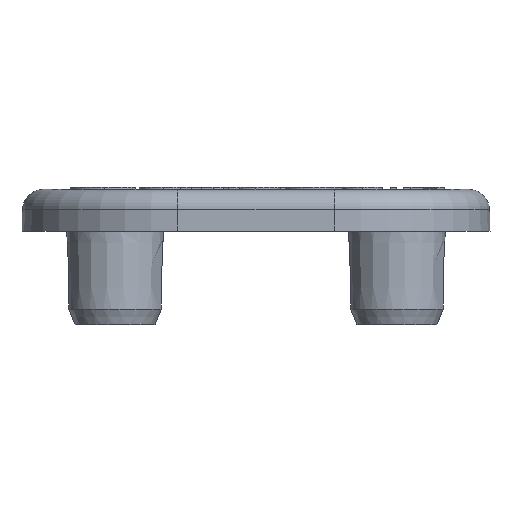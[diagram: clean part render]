
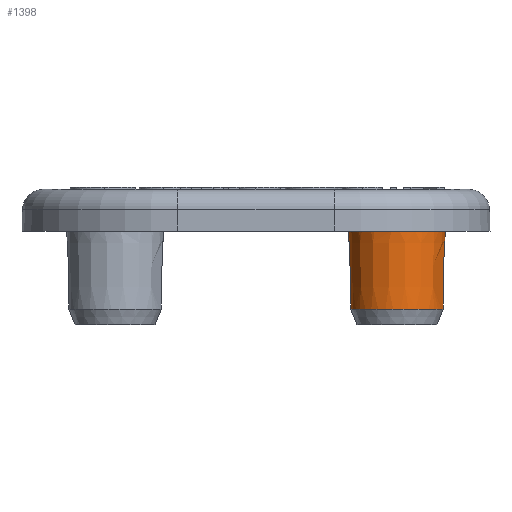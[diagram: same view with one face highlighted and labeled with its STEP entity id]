
A CAD part, front view. The second image highlights one B-rep face of the part: STEP entity #1398.
In plain terms, the highlighted conical face has half-angle 1 degrees and reference radius 4.65 mm.
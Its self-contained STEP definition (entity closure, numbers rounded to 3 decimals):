
#70 = CARTESIAN_POINT ( 'NONE',  ( 9.083, -14.3, -5.893 ) ) ;
#72 = B_SPLINE_CURVE_WITH_KNOTS ( 'NONE', 3,
 ( #6132, #1048, #10042, #70, #1113, #11214, #6192 ),
 .UNSPECIFIED., .F., .F.,
 ( 4, 3, 4 ),
 ( 0.007, 0.009, 0.014 ),
 .UNSPECIFIED. ) ;
#123 = FACE_OUTER_BOUND ( 'NONE', #2564, .T. ) ;
#193 = DIRECTION ( 'NONE',  ( 1., 0., 0. ) ) ;
#339 = VERTEX_POINT ( 'NONE', #3188 ) ;
#372 = CIRCLE ( 'NONE', #4734, 4.502 ) ;
#387 = CARTESIAN_POINT ( 'NONE',  ( 18.104, -14.3, -1. ) ) ;
#502 = DIRECTION ( 'NONE',  ( 1., 0., 0. ) ) ;
#530 = EDGE_CURVE ( 'NONE', #1846, #9855, #8696, .T. ) ;
#715 = CARTESIAN_POINT ( 'NONE',  ( 13.55, -13.55, 0. ) ) ;
#720 = B_SPLINE_CURVE_WITH_KNOTS ( 'NONE', 3,
 ( #9831, #8784, #12708, #3772 ),
 .UNSPECIFIED., .F., .F.,
 ( 4, 4 ),
 ( 0., 0.001 ),
 .UNSPECIFIED. ) ;
#773 = DIRECTION ( 'NONE',  ( 0., 0., 1. ) ) ;
#820 = CARTESIAN_POINT ( 'NONE',  ( 8.935, -13.55, -1. ) ) ;
#928 = LINE ( 'NONE', #6020, #2976 ) ;
#1048 = CARTESIAN_POINT ( 'NONE',  ( 9.102, -14.3, -6.964 ) ) ;
#1113 = CARTESIAN_POINT ( 'NONE',  ( 9.054, -14.3, -4.262 ) ) ;
#1215 = DIRECTION ( 'NONE',  ( 0., 0., 1. ) ) ;
#1358 = ORIENTED_EDGE ( 'NONE', *, *, #9087, .F. ) ;
#1398 = ADVANCED_FACE ( 'NONE', ( #123 ), #11439, .T. ) ;
#1641 = ORIENTED_EDGE ( 'NONE', *, *, #530, .F. ) ;
#1668 = AXIS2_PLACEMENT_3D ( 'NONE', #9429, #10289, #502 ) ;
#1703 = CARTESIAN_POINT ( 'NONE',  ( 12.965, -18.163, 1. ) ) ;
#1846 = VERTEX_POINT ( 'NONE', #8607 ) ;
#1950 = ORIENTED_EDGE ( 'NONE', *, *, #5797, .F. ) ;
#2059 = CIRCLE ( 'NONE', #3932, 4.615 ) ;
#2082 = DIRECTION ( 'NONE',  ( 0., 0., 1. ) ) ;
#2253 = DIRECTION ( 'NONE',  ( 1., 0., 0. ) ) ;
#2481 = AXIS2_PLACEMENT_3D ( 'NONE', #5137, #9109, #4942 ) ;
#2564 = EDGE_LOOP ( 'NONE', ( #3664, #9664, #8569, #10849, #1641, #5370, #9560, #1950, #5837, #1358 ) ) ;
#2616 = CARTESIAN_POINT ( 'NONE',  ( 13.024, -18.153, 0. ) ) ;
#2897 = CIRCLE ( 'NONE', #10189, 4.615 ) ;
#2902 = CARTESIAN_POINT ( 'NONE',  ( 8.996, -14.3, -1. ) ) ;
#2976 = VECTOR ( 'NONE', #3009, 1000. ) ;
#2992 = EDGE_CURVE ( 'NONE', #1846, #339, #2059, .T. ) ;
#3009 = DIRECTION ( 'NONE',  ( 0.017, 0., 1. ) ) ;
#3188 = CARTESIAN_POINT ( 'NONE',  ( 18.165, -13.55, -1. ) ) ;
#3461 = CARTESIAN_POINT ( 'NONE',  ( 17.989, -14.3, -7.5 ) ) ;
#3664 = ORIENTED_EDGE ( 'NONE', *, *, #10025, .F. ) ;
#3772 = CARTESIAN_POINT ( 'NONE',  ( 12.965, -18.163, 1. ) ) ;
#3932 = AXIS2_PLACEMENT_3D ( 'NONE', #6173, #1215, #5193 ) ;
#4323 = VERTEX_POINT ( 'NONE', #4595 ) ;
#4595 = CARTESIAN_POINT ( 'NONE',  ( 9.111, -14.3, -7.5 ) ) ;
#4734 = AXIS2_PLACEMENT_3D ( 'NONE', #10282, #8444, #2253 ) ;
#4859 = EDGE_CURVE ( 'NONE', #339, #5971, #928, .T. ) ;
#4942 = DIRECTION ( 'NONE',  ( 1., 0., 0. ) ) ;
#5113 = CARTESIAN_POINT ( 'NONE',  ( 17.998, -14.3, -6.964 ) ) ;
#5137 = CARTESIAN_POINT ( 'NONE',  ( 13.55, -13.55, 1. ) ) ;
#5193 = DIRECTION ( 'NONE',  ( -1., 0., 0. ) ) ;
#5277 = VERTEX_POINT ( 'NONE', #1703 ) ;
#5370 = ORIENTED_EDGE ( 'NONE', *, *, #2992, .T. ) ;
#5797 = EDGE_CURVE ( 'NONE', #12207, #5971, #10365, .T. ) ;
#5829 = EDGE_CURVE ( 'NONE', #4323, #9338, #72, .T. ) ;
#5837 = ORIENTED_EDGE ( 'NONE', *, *, #8817, .T. ) ;
#5908 = CARTESIAN_POINT ( 'NONE',  ( 18.046, -14.3, -4.262 ) ) ;
#5971 = VERTEX_POINT ( 'NONE', #10487 ) ;
#6020 = CARTESIAN_POINT ( 'NONE',  ( 18.2, -13.55, 1. ) ) ;
#6064 = CARTESIAN_POINT ( 'NONE',  ( 8.9, -13.55, 1. ) ) ;
#6132 = CARTESIAN_POINT ( 'NONE',  ( 9.111, -14.3, -7.5 ) ) ;
#6173 = CARTESIAN_POINT ( 'NONE',  ( 13.55, -13.55, -1. ) ) ;
#6186 = DIRECTION ( 'NONE',  ( -0.017, 0., 1. ) ) ;
#6192 = CARTESIAN_POINT ( 'NONE',  ( 8.996, -14.3, -1. ) ) ;
#6347 = CARTESIAN_POINT ( 'NONE',  ( 8.9, -13.55, 1. ) ) ;
#6428 = VERTEX_POINT ( 'NONE', #820 ) ;
#7030 = AXIS2_PLACEMENT_3D ( 'NONE', #715, #2082, #193 ) ;
#7075 = CARTESIAN_POINT ( 'NONE',  ( 18.008, -14.3, -6.429 ) ) ;
#7956 = LINE ( 'NONE', #6064, #7958 ) ;
#7958 = VECTOR ( 'NONE', #6186, 1000. ) ;
#8417 = DIRECTION ( 'NONE',  ( -1., 0., 0. ) ) ;
#8444 = DIRECTION ( 'NONE',  ( 0., 0., 1. ) ) ;
#8569 = ORIENTED_EDGE ( 'NONE', *, *, #5829, .F. ) ;
#8607 = CARTESIAN_POINT ( 'NONE',  ( 18.104, -14.3, -1. ) ) ;
#8696 = B_SPLINE_CURVE_WITH_KNOTS ( 'NONE', 3,
 ( #387, #9936, #5908, #10073, #7075, #5113, #11843 ),
 .UNSPECIFIED., .F., .F.,
 ( 4, 3, 4 ),
 ( 0.004, 0.009, 0.011 ),
 .UNSPECIFIED. ) ;
#8784 = CARTESIAN_POINT ( 'NONE',  ( 13.004, -18.156, 0.333 ) ) ;
#8817 = EDGE_CURVE ( 'NONE', #12207, #5277, #720, .T. ) ;
#9087 = EDGE_CURVE ( 'NONE', #12463, #5277, #11670, .T. ) ;
#9109 = DIRECTION ( 'NONE',  ( 0., 0., 1. ) ) ;
#9338 = VERTEX_POINT ( 'NONE', #2902 ) ;
#9429 = CARTESIAN_POINT ( 'NONE',  ( 13.55, -13.55, 1. ) ) ;
#9560 = ORIENTED_EDGE ( 'NONE', *, *, #4859, .T. ) ;
#9664 = ORIENTED_EDGE ( 'NONE', *, *, #9852, .T. ) ;
#9831 = CARTESIAN_POINT ( 'NONE',  ( 13.024, -18.153, 0. ) ) ;
#9852 = EDGE_CURVE ( 'NONE', #6428, #9338, #2897, .T. ) ;
#9855 = VERTEX_POINT ( 'NONE', #3461 ) ;
#9936 = CARTESIAN_POINT ( 'NONE',  ( 18.075, -14.3, -2.631 ) ) ;
#10025 = EDGE_CURVE ( 'NONE', #6428, #12463, #7956, .T. ) ;
#10042 = CARTESIAN_POINT ( 'NONE',  ( 9.092, -14.3, -6.428 ) ) ;
#10073 = CARTESIAN_POINT ( 'NONE',  ( 18.017, -14.3, -5.893 ) ) ;
#10189 = AXIS2_PLACEMENT_3D ( 'NONE', #12405, #773, #8417 ) ;
#10282 = CARTESIAN_POINT ( 'NONE',  ( 13.55, -13.55, -7.5 ) ) ;
#10289 = DIRECTION ( 'NONE',  ( 0., 0., 1. ) ) ;
#10365 = CIRCLE ( 'NONE', #7030, 4.633 ) ;
#10487 = CARTESIAN_POINT ( 'NONE',  ( 18.183, -13.55, 0. ) ) ;
#10849 = ORIENTED_EDGE ( 'NONE', *, *, #11694, .T. ) ;
#11214 = CARTESIAN_POINT ( 'NONE',  ( 9.025, -14.3, -2.631 ) ) ;
#11439 = CONICAL_SURFACE ( 'NONE', #2481, 4.65, 0.017 ) ;
#11670 = CIRCLE ( 'NONE', #1668, 4.65 ) ;
#11694 = EDGE_CURVE ( 'NONE', #4323, #9855, #372, .T. ) ;
#11843 = CARTESIAN_POINT ( 'NONE',  ( 17.989, -14.3, -7.5 ) ) ;
#12207 = VERTEX_POINT ( 'NONE', #2616 ) ;
#12405 = CARTESIAN_POINT ( 'NONE',  ( 13.55, -13.55, -1. ) ) ;
#12463 = VERTEX_POINT ( 'NONE', #6347 ) ;
#12708 = CARTESIAN_POINT ( 'NONE',  ( 12.985, -18.16, 0.667 ) ) ;
